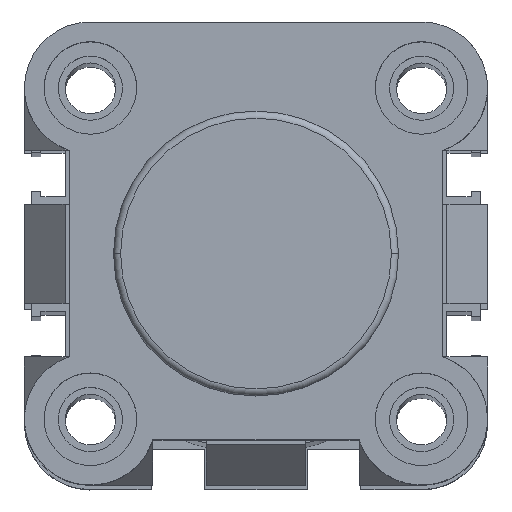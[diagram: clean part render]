
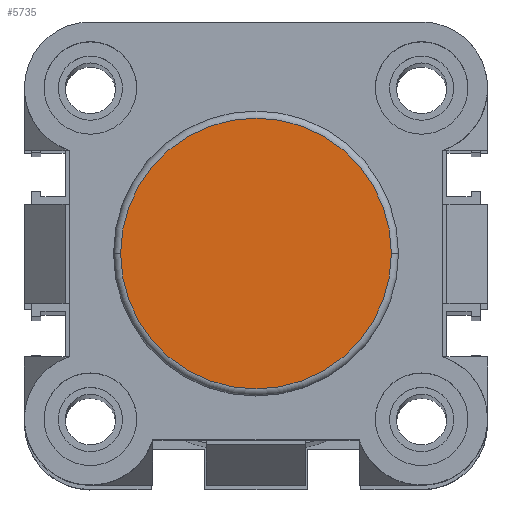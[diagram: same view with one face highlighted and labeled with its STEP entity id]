
A CAD part, top view. The second image highlights one B-rep face of the part: STEP entity #5735.
In plain terms, the highlighted planar face has unit normal (0, 0, 1).
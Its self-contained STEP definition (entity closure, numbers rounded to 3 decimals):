
#1712 = CARTESIAN_POINT ( 'NONE',  ( 32.5, 32.5, 34. ) ) ;
#4570 = CARTESIAN_POINT ( 'NONE',  ( 32.5, 32.5, 34. ) ) ;
#4604 = VERTEX_POINT ( 'NONE', #12824 ) ;
#5735 = ADVANCED_FACE ( 'NONE', ( #13960 ), #7515, .T. ) ;
#6433 = DIRECTION ( 'NONE',  ( 0., 0., 1. ) ) ;
#7104 = AXIS2_PLACEMENT_3D ( 'NONE', #1712, #16695, #7193 ) ;
#7193 = DIRECTION ( 'NONE',  ( 1., 0., 0. ) ) ;
#7515 = PLANE ( 'NONE',  #7104 ) ;
#7949 = VERTEX_POINT ( 'NONE', #16454 ) ;
#9281 = AXIS2_PLACEMENT_3D ( 'NONE', #4570, #11983, #17937 ) ;
#9385 = ORIENTED_EDGE ( 'NONE', *, *, #22521, .T. ) ;
#11983 = DIRECTION ( 'NONE',  ( 0., 0., 1. ) ) ;
#11993 = DIRECTION ( 'NONE',  ( 1., 0., 0. ) ) ;
#12824 = CARTESIAN_POINT ( 'NONE',  ( 51.5, 32.5, 34. ) ) ;
#12897 = AXIS2_PLACEMENT_3D ( 'NONE', #21517, #6433, #11993 ) ;
#13960 = FACE_OUTER_BOUND ( 'NONE', #15490, .T. ) ;
#15490 = EDGE_LOOP ( 'NONE', ( #9385, #21739 ) ) ;
#16454 = CARTESIAN_POINT ( 'NONE',  ( 13.5, 32.5, 34. ) ) ;
#16695 = DIRECTION ( 'NONE',  ( 0., 0., 1. ) ) ;
#17379 = CIRCLE ( 'NONE', #12897, 19. ) ;
#17937 = DIRECTION ( 'NONE',  ( 1., 0., 0. ) ) ;
#19096 = EDGE_CURVE ( 'NONE', #7949, #4604, #17379, .T. ) ;
#21517 = CARTESIAN_POINT ( 'NONE',  ( 32.5, 32.5, 34. ) ) ;
#21739 = ORIENTED_EDGE ( 'NONE', *, *, #19096, .T. ) ;
#22521 = EDGE_CURVE ( 'NONE', #4604, #7949, #23064, .T. ) ;
#23064 = CIRCLE ( 'NONE', #9281, 19. ) ;
